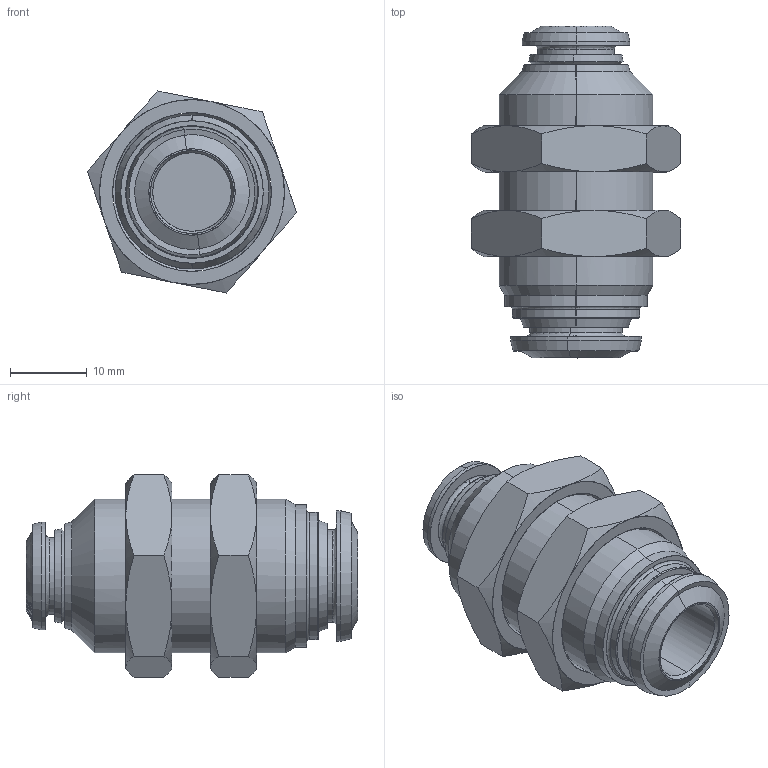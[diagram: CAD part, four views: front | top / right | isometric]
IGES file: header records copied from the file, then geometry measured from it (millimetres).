
Start section: SolidWorks IGES file using analytic representation for surfaces
Global section: file name: K:\Disegni Esecutivi\SERIE 50000\ASSIEMI_50000\50050\5005000011A.IGS; native system: SolidWorks 2016; preprocessor: SolidWorks 2016; author: cad01; date: 190618.100322; units: millimetre
Bounding box: 27.18 x 43.1 x 26.24 mm (x, y, z)
Surface area: 5113.4 mm2 (no closed solid volume)
Topology: 0 solids, 0 shells, 257 faces, 2810 edges, 2808 vertices
Faces by surface type: revolution 136, bspline 121
